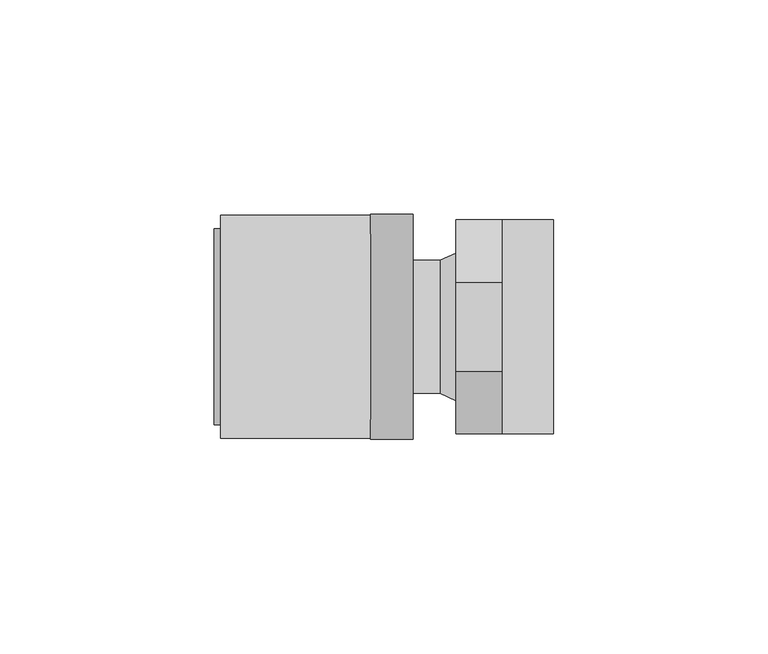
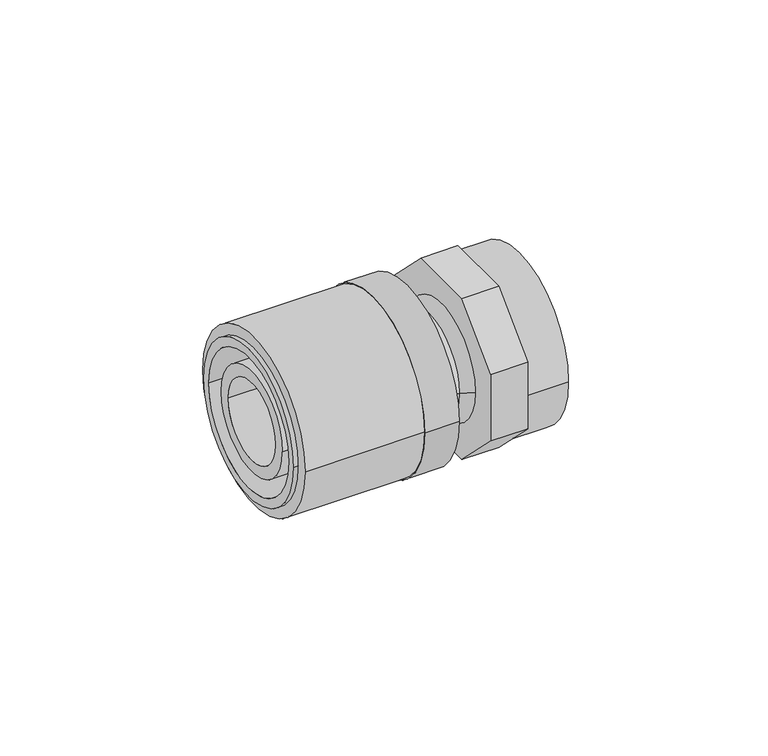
"""IFC4 building model written with IfcOpenShell, lengths in millimetres: pipe fitting geometry, FASTLOC_Adapter_LX, with internal thread : FSL A internal CZ."""

from ifc_helpers import new_model, si_unit, point, frame, origin, origin_2d, place, context, project, spatial, polyline, circle_curve, trimmed, segment, composite_curve, outline, extrude, source, transform, mapped, element, save
from ifc_brep_helpers import plane_surface, cylinder_surface, revolved_surface, advanced_brep


def pipe_fitting_52b87474(model_context):
    return source(origin(), model_context, "Body", "SolidModel", [
        extrude(outline(composite_curve([segment(trimmed(circle_curve(origin_2d(), 26.0), [point((26.0, 0.0))], [point((-26.0, 0.0))], False, "CARTESIAN"), True, "CONTINUOUS"), segment(trimmed(circle_curve(origin_2d(), 26.0), [point((-26.0, 0.0))], [point((26.0, 0.0))], False, "CARTESIAN"), True, "CONTINUOUS")], self_intersect=False), holes=[composite_curve([segment(trimmed(circle_curve(origin_2d(), 21.25), [point((21.25, 0.0))], [point((-21.25, 0.0))], True, "CARTESIAN"), True, "CONTINUOUS"), segment(trimmed(circle_curve(origin_2d(), 21.25), [point((-21.25, 0.0))], [point((21.25, 0.0))], True, "CARTESIAN"), True, "CONTINUOUS")], self_intersect=False)]), frame((-55.0, 0.0, 0.0), z_axis=(1.0, 0.0, 0.0), x_axis=(0.0, 1.0, 0.0)), (0.0, 0.0, 1.0), 35.0),
        advanced_brep(
        [(-20.0, -26.3, 0.0), (-20.0, 26.3, 0.0), (-10.0, 26.3, 0.0), (-10.0, -26.3, 0.0), (-56.5, -22.9, 0.0), (-56.5, 22.9, 0.0), (-20.0, 22.9, 0.0), (-20.0, -22.9, 0.0), (-10.0, -20.2, 0.0), (-10.0, 20.2, 0.0), (-56.5, 20.2, 0.0), (-56.5, -20.2, 0.0)],
        [
            (0, 1, circle_curve(frame((-20.0, 0.0, 0.0), z_axis=(1.0, 0.0, 0.0), x_axis=(0.0, 1.0, 0.0)), 26.3)),
            (1, 2),
            (2, 3, circle_curve(frame((-10.0, 0.0, 0.0), z_axis=(-1.0, 0.0, 0.0), x_axis=(0.0, 1.0, 0.0)), 26.3)),
            (3, 0),
            (4, 5, circle_curve(frame((-56.5, 0.0, 0.0), z_axis=(1.0, 0.0, 0.0), x_axis=(0.0, 1.0, 0.0)), 22.9)),
            (5, 6),
            (6, 7, circle_curve(frame((-20.0, 0.0, 0.0), z_axis=(-1.0, 0.0, 0.0), x_axis=(0.0, 1.0, 0.0)), 22.9)),
            (7, 4),
            (8, 9, circle_curve(frame((-10.0, 0.0, 0.0), z_axis=(1.0, 0.0, 0.0), x_axis=(0.0, 1.0, 0.0)), 20.2)),
            (9, 10),
            (10, 11, circle_curve(frame((-56.5, 0.0, 0.0), z_axis=(-1.0, 0.0, 0.0), x_axis=(0.0, 1.0, 0.0)), 20.2)),
            (11, 8),
            (1, 0, circle_curve(frame((-20.0, 0.0, 0.0), z_axis=(1.0, 0.0, 0.0), x_axis=(0.0, -1.0, 0.0)), 26.3)),
            (3, 2, circle_curve(frame((-10.0, 0.0, 0.0), z_axis=(-1.0, 0.0, 0.0), x_axis=(0.0, -1.0, 0.0)), 26.3)),
            (6, 7, circle_curve(frame((-20.0, 0.0, 0.0), z_axis=(1.0, 0.0, 0.0), x_axis=(0.0, -1.0, 0.0)), 22.9)),
            (5, 4, circle_curve(frame((-56.5, 0.0, 0.0), z_axis=(1.0, 0.0, 0.0), x_axis=(0.0, -1.0, 0.0)), 22.9)),
            (10, 11, circle_curve(frame((-56.5, 0.0, 0.0), z_axis=(1.0, 0.0, 0.0), x_axis=(0.0, -1.0, 0.0)), 20.2)),
            (9, 8, circle_curve(frame((-10.0, 0.0, 0.0), z_axis=(1.0, 0.0, 0.0), x_axis=(0.0, -1.0, 0.0)), 20.2)),
        ],
        [
            cylinder_surface(frame((-10.0, 0.0, 0.0), z_axis=(-1.0, 0.0, 0.0), x_axis=(0.0, 1.0, 0.0)), 26.3),
            cylinder_surface(frame((-10.0, 0.0, 0.0), z_axis=(-1.0, 0.0, 0.0), x_axis=(0.0, 1.0, 0.0)), 22.9),
            revolved_surface(polyline([(-56.5, 20.2, 0.0), (-10.0, 20.2, 0.0)]), (-10.0, 0.0, 0.0), (-1.0, 0.0, 0.0)),
            cylinder_surface(frame((-10.0, 0.0, 0.0), z_axis=(-1.0, 0.0, 0.0), x_axis=(0.0, -1.0, 0.0)), 26.3),
            plane_surface(frame((-20.0, 0.0, 0.0), z_axis=(-1.0, 0.0, 0.0), x_axis=(0.0, -1.0, 0.0))),
            cylinder_surface(frame((-10.0, 0.0, 0.0), z_axis=(-1.0, 0.0, 0.0), x_axis=(0.0, -1.0, 0.0)), 22.9),
            plane_surface(frame((-56.5, 0.0, 0.0), z_axis=(-1.0, 0.0, 0.0), x_axis=(0.0, -1.0, 0.0))),
            revolved_surface(polyline([(-56.5, -20.2, 0.0), (-10.0, -20.2, 0.0)]), (-10.0, 0.0, 0.0), (-1.0, 0.0, 0.0)),
            plane_surface(frame((-10.0, 0.0, 0.0), z_axis=(1.0, 0.0, 0.0), x_axis=(0.0, -1.0, 0.0))),
        ],
        [
            (0, [[1, 2, 3, 4]]),
            (1, [[5, 6, 7, 8]]),
            (2, [[9, 10, 11, 12]]),
            (3, [[13, -4, 14, -2]]),
            (4, [[-13, -1], [15, -7]]),
            (5, [[16, -8, -15, -6]]),
            (6, [[-16, -5], [17, -11]]),
            (7, [[18, -12, -17, -10]]),
            (8, [[-14, -3], [-18, -9]]),
        ],
    ),
        advanced_brep(
        [(-20.0, 15.5, 0.0), (-20.0, -15.5, 0.0), (-55.6, -15.5, 0.0), (-55.6, 15.5, 0.0), (-16.3, 17.2, 0.0), (-16.3, -17.2, 0.0), (-20.0, -17.2, 0.0), (-20.0, 17.2, 0.0), (-3.7, 15.5, 0.0), (-3.7, -15.5, 0.0), (-16.3, -15.5, 0.0), (-16.3, 15.5, 0.0), (0.0, 17.2, 0.0), (0.0, -17.2, 0.0), (-55.6, 11.95, 0.0), (-55.6, -11.95, 0.0), (0.0, -11.95, 0.0), (0.0, 11.95, 0.0)],
        [
            (0, 1, circle_curve(frame((-20.0, 0.0, 0.0), z_axis=(-1.0, 0.0, 0.0), x_axis=(0.0, -1.0, 0.0)), 15.5)),
            (1, 2),
            (2, 3, circle_curve(frame((-55.6, 0.0, 0.0), z_axis=(1.0, 0.0, 0.0), x_axis=(0.0, -1.0, 0.0)), 15.5)),
            (3, 0),
            (4, 5, circle_curve(frame((-16.3, 0.0, 0.0), z_axis=(-1.0, 0.0, 0.0), x_axis=(0.0, -1.0, 0.0)), 17.2)),
            (5, 6),
            (6, 7, circle_curve(frame((-20.0, 0.0, 0.0), z_axis=(1.0, 0.0, 0.0), x_axis=(0.0, -1.0, 0.0)), 17.2)),
            (7, 4),
            (8, 9, circle_curve(frame((-3.7, 0.0, 0.0), z_axis=(-1.0, 0.0, 0.0), x_axis=(0.0, -1.0, 0.0)), 15.5)),
            (9, 10),
            (10, 11, circle_curve(frame((-16.3, 0.0, 0.0), z_axis=(1.0, 0.0, 0.0), x_axis=(0.0, -1.0, 0.0)), 15.5)),
            (11, 8),
            (12, 13, circle_curve(frame((0.0, 0.0, 0.0), z_axis=(-1.0, 0.0, 0.0), x_axis=(0.0, -1.0, 0.0)), 17.2)),
            (13, 9),
            (8, 12),
            (14, 15, circle_curve(frame((-55.6, 0.0, 0.0), z_axis=(-1.0, 0.0, 0.0), x_axis=(0.0, -1.0, 0.0)), 11.95)),
            (15, 16),
            (16, 17, circle_curve(frame((0.0, 0.0, 0.0), z_axis=(1.0, 0.0, 0.0), x_axis=(0.0, -1.0, 0.0)), 11.95)),
            (17, 14),
            (2, 3, circle_curve(frame((-55.6, 0.0, 0.0), z_axis=(-1.0, 0.0, 0.0), x_axis=(0.0, 1.0, 0.0)), 15.5)),
            (14, 15, circle_curve(frame((-55.6, 0.0, 0.0), z_axis=(1.0, 0.0, 0.0), x_axis=(0.0, 1.0, 0.0)), 11.95)),
            (1, 0, circle_curve(frame((-20.0, 0.0, 0.0), z_axis=(-1.0, 0.0, 0.0), x_axis=(0.0, 1.0, 0.0)), 15.5)),
            (6, 7, circle_curve(frame((-20.0, 0.0, 0.0), z_axis=(-1.0, 0.0, 0.0), x_axis=(0.0, 1.0, 0.0)), 17.2)),
            (5, 4, circle_curve(frame((-16.3, 0.0, 0.0), z_axis=(-1.0, 0.0, 0.0), x_axis=(0.0, 1.0, 0.0)), 17.2)),
            (10, 11, circle_curve(frame((-16.3, 0.0, 0.0), z_axis=(-1.0, 0.0, 0.0), x_axis=(0.0, 1.0, 0.0)), 15.5)),
            (9, 8, circle_curve(frame((-3.7, 0.0, 0.0), z_axis=(-1.0, 0.0, 0.0), x_axis=(0.0, 1.0, 0.0)), 15.5)),
            (13, 12, circle_curve(frame((0.0, 0.0, 0.0), z_axis=(-1.0, 0.0, 0.0), x_axis=(0.0, 1.0, 0.0)), 17.2)),
            (16, 17, circle_curve(frame((0.0, 0.0, 0.0), z_axis=(-1.0, 0.0, 0.0), x_axis=(0.0, 1.0, 0.0)), 11.95)),
        ],
        [
            cylinder_surface(frame((0.0, 0.0, 0.0), z_axis=(1.0, 0.0, 0.0), x_axis=(0.0, -1.0, 0.0)), 15.5),
            cylinder_surface(frame((0.0, 0.0, 0.0), z_axis=(1.0, 0.0, 0.0), x_axis=(0.0, -1.0, 0.0)), 17.2),
            revolved_surface(polyline([(-3.7, -15.5, 0.0), (0.0, -17.2, 0.0)]), (0.0, 0.0, 0.0), (1.0, 0.0, 0.0)),
            revolved_surface(polyline([(0.0, -11.95, 0.0), (-55.6, -11.95, 0.0)]), (0.0, 0.0, 0.0), (1.0, 0.0, 0.0)),
            plane_surface(frame((-55.6, 0.0, 0.0), z_axis=(-1.0, 0.0, 0.0), x_axis=(0.0, 1.0, 0.0))),
            cylinder_surface(frame((0.0, 0.0, 0.0), z_axis=(1.0, 0.0, 0.0), x_axis=(0.0, 1.0, 0.0)), 15.5),
            plane_surface(frame((-20.0, 0.0, 0.0), z_axis=(-1.0, 0.0, 0.0), x_axis=(0.0, 1.0, 0.0))),
            cylinder_surface(frame((0.0, 0.0, 0.0), z_axis=(1.0, 0.0, 0.0), x_axis=(0.0, 1.0, 0.0)), 17.2),
            plane_surface(frame((-16.3, 0.0, 0.0), z_axis=(1.0, 0.0, 0.0), x_axis=(0.0, 1.0, 0.0))),
            revolved_surface(polyline([(-3.7, 15.5, 0.0), (0.0, 17.2, 0.0)]), (0.0, 0.0, 0.0), (1.0, 0.0, 0.0)),
            plane_surface(frame((0.0, 0.0, 0.0), z_axis=(1.0, 0.0, 0.0), x_axis=(0.0, 1.0, 0.0))),
            revolved_surface(polyline([(0.0, 11.95, 0.0), (-55.6, 11.95, 0.0)]), (0.0, 0.0, 0.0), (1.0, 0.0, 0.0)),
        ],
        [
            (0, [[1, 2, 3, 4]]),
            (1, [[5, 6, 7, 8]]),
            (0, [[9, 10, 11, 12]]),
            (2, [[13, 14, -9, 15]]),
            (3, [[16, 17, 18, 19]]),
            (4, [[20, -3], [21, -16]]),
            (5, [[22, -4, -20, -2]]),
            (6, [[23, -7], [-22, -1]]),
            (7, [[24, -8, -23, -6]]),
            (8, [[-24, -5], [25, -11]]),
            (5, [[26, -12, -25, -10]]),
            (9, [[27, -15, -26, -14]]),
            (10, [[-27, -13], [28, -18]]),
            (11, [[-21, -19, -28, -17]]),
        ],
    ),
        extrude(outline(polyline([(-10.3553391, -25.0), (-25.0, -10.3553391), (-25.0, 10.3553391), (-10.3553391, 25.0), (10.3553391, 25.0), (25.0, 10.3553391), (25.0, -10.3553391), (10.3553391, -25.0), (-10.3553391, -25.0)]), holes=[composite_curve([segment(trimmed(circle_curve(origin_2d(), 11.95), [point((-11.95, 0.0))], [point((11.95, 0.0))], True, "CARTESIAN"), True, "CONTINUOUS"), segment(trimmed(circle_curve(origin_2d(), 11.95), [point((11.95, 0.0))], [point((-11.95, 0.0))], True, "CARTESIAN"), True, "CONTINUOUS")], self_intersect=False)]), frame((0.0, 0.0, 0.0), z_axis=(1.0, 0.0, 0.0), x_axis=(0.0, 1.0, 0.0)), (0.0, 0.0, 1.0), 10.8),
        extrude(outline(composite_curve([segment(trimmed(circle_curve(origin_2d(), 25.0), [point((-25.0, 0.0))], [point((25.0, 0.0))], False, "CARTESIAN"), True, "CONTINUOUS"), segment(trimmed(circle_curve(origin_2d(), 25.0), [point((25.0, 0.0))], [point((-25.0, 0.0))], False, "CARTESIAN"), True, "CONTINUOUS")], self_intersect=False), holes=[composite_curve([segment(trimmed(circle_curve(origin_2d(), 19.5), [point((-19.5, 0.0))], [point((19.5, 0.0))], True, "CARTESIAN"), True, "CONTINUOUS"), segment(trimmed(circle_curve(origin_2d(), 19.5), [point((19.5, 0.0))], [point((-19.5, 0.0))], True, "CARTESIAN"), True, "CONTINUOUS")], self_intersect=False)]), frame((10.8, 0.0, 0.0), z_axis=(1.0, 0.0, 0.0), x_axis=(0.0, 1.0, 0.0)), (0.0, 0.0, 1.0), 12.0),
    ])


if __name__ == "__main__":
    model = new_model("IFC4")
    model_context = context("Model", 3, world=origin())
    ifc_project = project(units=[si_unit("LENGTHUNIT", "METRE", prefix="MILLI")], contexts=[model_context])
    site = spatial("IfcSite", under=ifc_project)
    building = spatial("IfcBuilding", under=site)
    placement = place(None, origin())
    pipe_fitting_shape = pipe_fitting_52b87474(model_context)
    element("IfcPipeFitting", 1, ObjectType="FASTLOC_Adapter_LX, with internal thread : FSL A internal CZ", at=placement, inside=building, context=model_context, shape_type="MappedRepresentation", body=[
        mapped(pipe_fitting_shape, transform((0.0, 0.0, 0.0), x_axis=(1.0, 0.0, 0.0), y_axis=(0.0, 1.0, 0.0), z_axis=(0.0, 0.0, 1.0))),
    ])
    save(model, "model.ifc")
